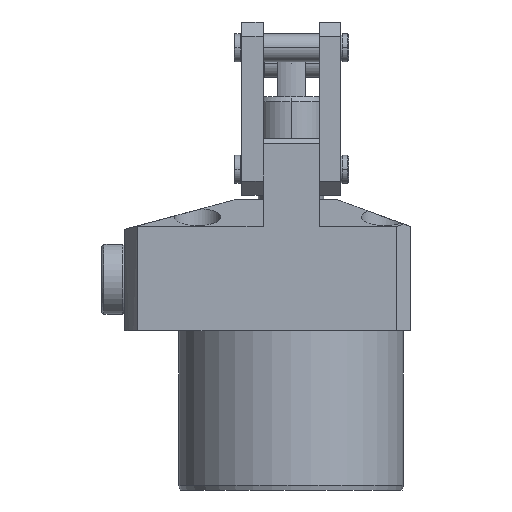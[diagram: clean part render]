
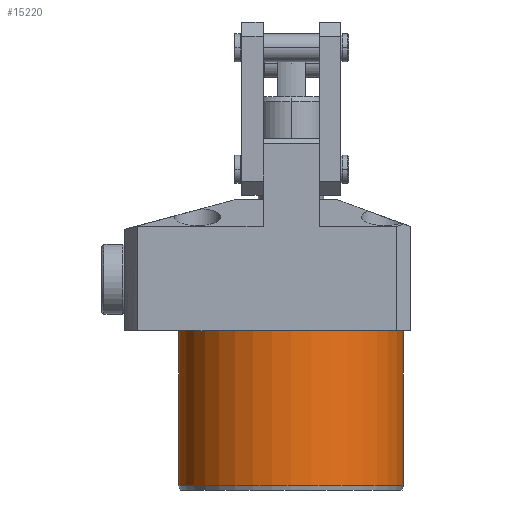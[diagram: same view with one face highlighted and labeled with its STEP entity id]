
A CAD part, front view. The second image highlights one B-rep face of the part: STEP entity #15220.
In plain terms, the highlighted cylindrical face has radius 24 mm (diameter 48 mm), a partial arc.
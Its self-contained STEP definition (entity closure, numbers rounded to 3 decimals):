
#606 = LINE ( 'NONE', #4223, #14196 ) ;
#750 = VERTEX_POINT ( 'NONE', #4403 ) ;
#1127 = DIRECTION ( 'NONE',  ( 0., 0., 1. ) ) ;
#1308 = FACE_OUTER_BOUND ( 'NONE', #12680, .T. ) ;
#1637 = ORIENTED_EDGE ( 'NONE', *, *, #8061, .T. ) ;
#2962 = DIRECTION ( 'NONE',  ( 0., 0., 1. ) ) ;
#4223 = CARTESIAN_POINT ( 'NONE',  ( -24., 0., -34. ) ) ;
#4403 = CARTESIAN_POINT ( 'NONE',  ( 24., 0., 0. ) ) ;
#4916 = ORIENTED_EDGE ( 'NONE', *, *, #5508, .T. ) ;
#5464 = ORIENTED_EDGE ( 'NONE', *, *, #6212, .F. ) ;
#5508 = EDGE_CURVE ( 'NONE', #8265, #750, #12594, .T. ) ;
#6212 = EDGE_CURVE ( 'NONE', #6391, #10568, #606, .T. ) ;
#6391 = VERTEX_POINT ( 'NONE', #7127 ) ;
#6844 = DIRECTION ( 'NONE',  ( 0., 0., 1. ) ) ;
#7127 = CARTESIAN_POINT ( 'NONE',  ( -24., 0., -33. ) ) ;
#7147 = DIRECTION ( 'NONE',  ( 0., 0., -1. ) ) ;
#7333 = CYLINDRICAL_SURFACE ( 'NONE', #13311, 24. ) ;
#7825 = CIRCLE ( 'NONE', #9965, 24. ) ;
#8061 = EDGE_CURVE ( 'NONE', #6391, #8265, #8376, .T. ) ;
#8265 = VERTEX_POINT ( 'NONE', #16316 ) ;
#8376 = CIRCLE ( 'NONE', #10486, 24. ) ;
#8738 = CARTESIAN_POINT ( 'NONE',  ( -24., 0., 0. ) ) ;
#9965 = AXIS2_PLACEMENT_3D ( 'NONE', #14793, #7147, #16092 ) ;
#10064 = EDGE_CURVE ( 'NONE', #750, #10568, #7825, .T. ) ;
#10486 = AXIS2_PLACEMENT_3D ( 'NONE', #14502, #6844, #15777 ) ;
#10568 = VERTEX_POINT ( 'NONE', #8738 ) ;
#11394 = CARTESIAN_POINT ( 'NONE',  ( 24., 0., -34. ) ) ;
#12105 = ORIENTED_EDGE ( 'NONE', *, *, #10064, .T. ) ;
#12358 = DIRECTION ( 'NONE',  ( 1., 0., 0. ) ) ;
#12594 = LINE ( 'NONE', #11394, #15622 ) ;
#12680 = EDGE_LOOP ( 'NONE', ( #5464, #1637, #4916, #12105 ) ) ;
#13311 = AXIS2_PLACEMENT_3D ( 'NONE', #13517, #13731, #12358 ) ;
#13517 = CARTESIAN_POINT ( 'NONE',  ( 0., 0., -34. ) ) ;
#13731 = DIRECTION ( 'NONE',  ( 0., 0., 1. ) ) ;
#14196 = VECTOR ( 'NONE', #2962, 1000. ) ;
#14502 = CARTESIAN_POINT ( 'NONE',  ( 0., 0., -33. ) ) ;
#14793 = CARTESIAN_POINT ( 'NONE',  ( 0., 0., 0. ) ) ;
#15220 = ADVANCED_FACE ( 'NONE', ( #1308 ), #7333, .T. ) ;
#15622 = VECTOR ( 'NONE', #1127, 1000. ) ;
#15777 = DIRECTION ( 'NONE',  ( -1., 0., 0. ) ) ;
#16092 = DIRECTION ( 'NONE',  ( 1., 0., 0. ) ) ;
#16316 = CARTESIAN_POINT ( 'NONE',  ( 24., 0., -33. ) ) ;
